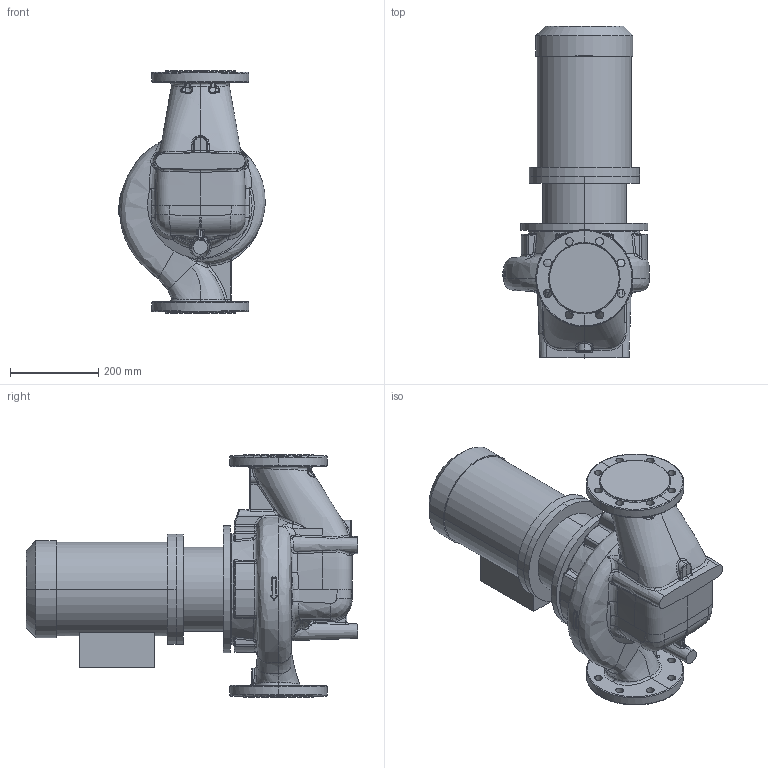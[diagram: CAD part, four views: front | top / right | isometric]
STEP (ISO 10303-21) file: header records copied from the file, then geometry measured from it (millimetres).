
FILE_DESCRIPTION (( 'STEP AP214' ), '1' );
FILE_NAME ('KRL 100-200-4-4.STEP', '2026-04-03T06:28:07', ( '' ), ( '' ), 'SwSTEP 2.0', 'SolidWorks 2016', '' );
FILE_SCHEMA (( 'AUTOMOTIVE_DESIGN' ));
Length unit declared in the file: millimetre
Products named in the file (1): KRL 100-200-4-4
Bounding box: 331.58 x 751.8 x 550 mm (x, y, z)
Volume: 39548398.6 mm3; surface area: 1394737.6 mm2
Topology: 4 solids, 4 shells, 785 faces, 1887 edges, 1096 vertices
Faces by surface type: bspline 397, cylinder 180, plane 106, sphere 39, torus 33, cone 30
Entity records: 70711 total; most frequent: CARTESIAN_POINT 47356, ORIENTED_EDGE 3704, DIRECTION 2226, EDGE_CURVE 1852, VERTEX_POINT 1094, AXIS2_PLACEMENT_3D 964, EDGE_LOOP 836, UNCERTAINTY_MEASURE_WITH_UNIT 791
